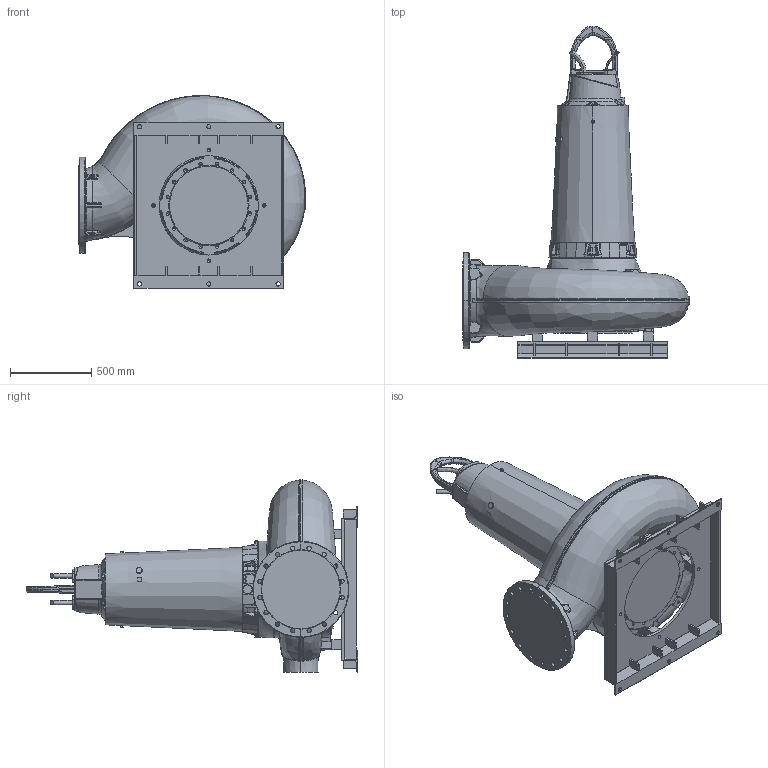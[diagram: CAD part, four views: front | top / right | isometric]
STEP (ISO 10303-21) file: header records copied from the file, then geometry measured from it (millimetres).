
FILE_DESCRIPTION (( 'STEP AP214' ), '1' );
FILE_NAME ('PE5_XFP400M-CH2_DRY_A_NG2.STEP', '2017-03-15T09:01:03', ( '' ), ( '' ), 'SwSTEP 2.0', 'SolidWorks 2017', '' );
FILE_SCHEMA (( 'AUTOMOTIVE_DESIGN' ));
Length unit declared in the file: millimetre
Products named in the file (1): PE5_XFP400M-CH2_DRY_A_NG2
Bounding box: 1393 x 2036.97 x 1184.25 mm (x, y, z)
Volume: 587303759.7 mm3; surface area: 7985732.5 mm2
Topology: 3 solids, 5 shells, 1878 faces, 4798 edges, 2848 vertices
Faces by surface type: bspline 631, plane 452, cylinder 408, cone 222, torus 117, sphere 48
Entity records: 146306 total; most frequent: CARTESIAN_POINT 85912, ORIENTED_EDGE 9390, DIRECTION 6800, EDGE_CURVE 4695, VERTEX_POINT 2848, AXIS2_PLACEMENT_3D 2633, EDGE_LOOP 2015, UNCERTAINTY_MEASURE_WITH_UNIT 1883
